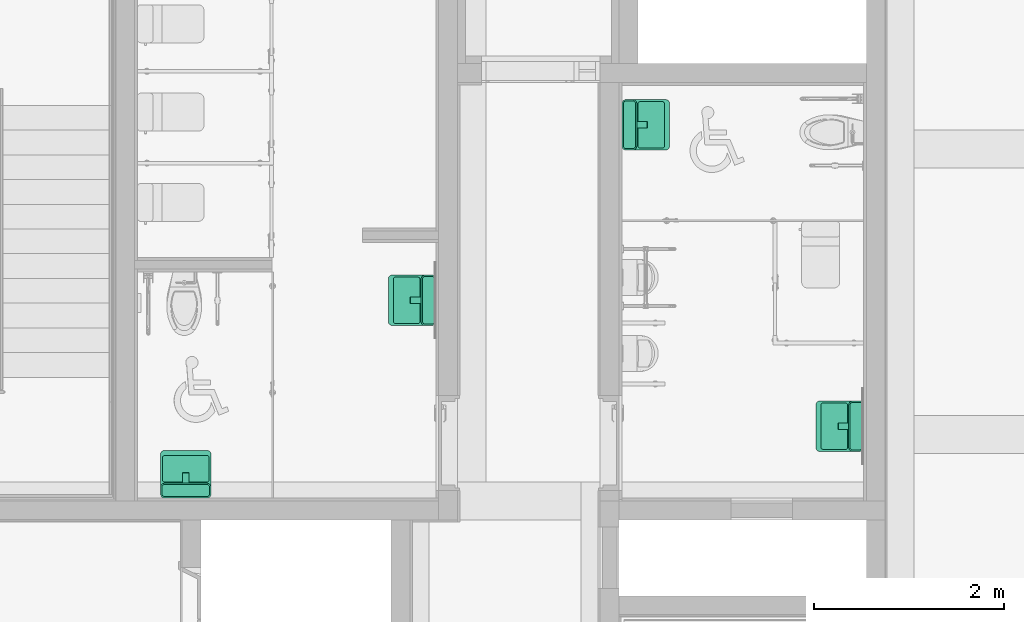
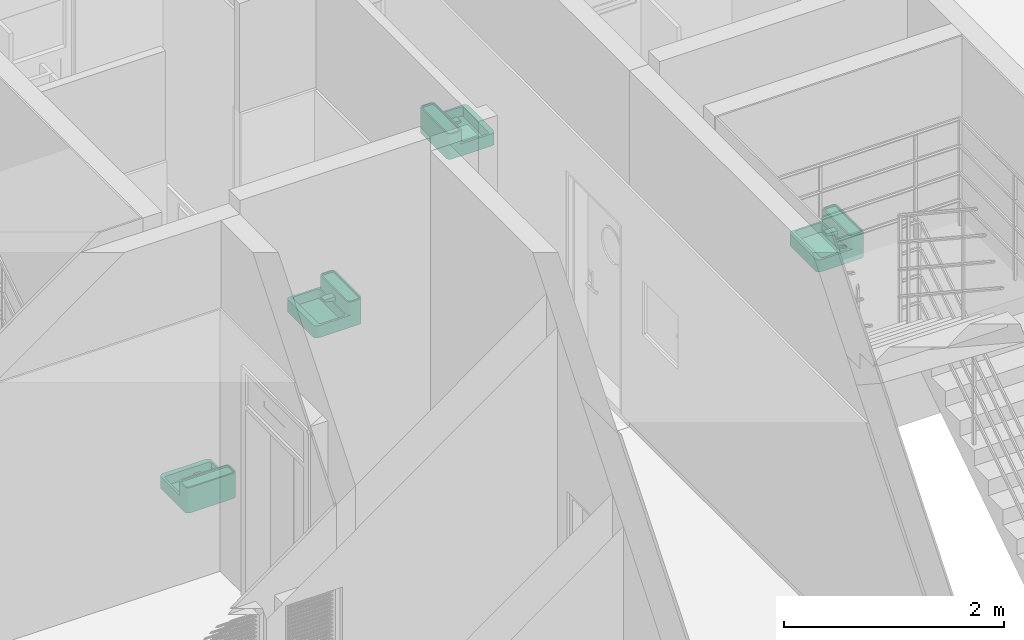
# One storey, part 76 of 81: 4 flow terminals.
"""IFC2X3 building model written with IfcOpenShell, lengths in millimetres."""

from ifc_helpers import new_model, entity, si_unit, converted_unit, derived_unit, direction, frame, origin, place, context, subcontext, project, spatial, faceted_brep, source, transform, mapped, material, material_list, type_object, type_shapes, element, save


model = new_model("IFC2X3")

# Units and contexts
model_context = context("Model", 3, precision=0.01, world=origin(), true_north=direction((6.123031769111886e-17, 1.0)))
body_context = subcontext(model_context, "Body", "Model", "MODEL_VIEW")
ifc_project = project(units=[si_unit("LENGTHUNIT", "METRE", prefix="MILLI"), si_unit("AREAUNIT", "SQUARE_METRE"), si_unit("VOLUMEUNIT", "CUBIC_METRE"), converted_unit("PLANEANGLEUNIT", "DEGREE", entity("IfcRatioMeasure", 0.017453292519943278), si_unit("PLANEANGLEUNIT", "RADIAN"), dimensions=[0, 0, 0, 0, 0, 0, 0]), si_unit("MASSUNIT", "GRAM", prefix="KILO"), derived_unit("MASSDENSITYUNIT", [(si_unit("MASSUNIT", "GRAM", prefix="KILO"), 1), (si_unit("LENGTHUNIT", "METRE"), -3)]), derived_unit("MOMENTOFINERTIAUNIT", [(si_unit("LENGTHUNIT", "METRE"), 4)]), si_unit("TIMEUNIT", "SECOND"), si_unit("FREQUENCYUNIT", "HERTZ"), si_unit("THERMODYNAMICTEMPERATUREUNIT", "DEGREE_CELSIUS"), derived_unit("THERMALTRANSMITTANCEUNIT", [(si_unit("MASSUNIT", "GRAM", prefix="KILO"), 1), (si_unit("THERMODYNAMICTEMPERATUREUNIT", "KELVIN"), -1), (si_unit("TIMEUNIT", "SECOND"), -3)]), derived_unit("VOLUMETRICFLOWRATEUNIT", [(si_unit("LENGTHUNIT", "METRE"), 3), (si_unit("TIMEUNIT", "SECOND"), -1)]), derived_unit("MASSFLOWRATEUNIT", [(si_unit("MASSUNIT", "GRAM", prefix="KILO"), 1), (si_unit("TIMEUNIT", "SECOND"), -1)]), derived_unit("ROTATIONALFREQUENCYUNIT", [(si_unit("TIMEUNIT", "SECOND"), -1)]), si_unit("ELECTRICCURRENTUNIT", "AMPERE"), si_unit("ELECTRICVOLTAGEUNIT", "VOLT"), si_unit("POWERUNIT", "WATT"), si_unit("FORCEUNIT", "NEWTON", prefix="KILO"), si_unit("ILLUMINANCEUNIT", "LUX"), si_unit("LUMINOUSFLUXUNIT", "LUMEN"), si_unit("LUMINOUSINTENSITYUNIT", "CANDELA"), derived_unit("USERDEFINED", [(si_unit("MASSUNIT", "GRAM", prefix="KILO"), -1), (si_unit("LENGTHUNIT", "METRE"), -2), (si_unit("TIMEUNIT", "SECOND"), 3), (si_unit("LUMINOUSFLUXUNIT", "LUMEN"), 1)]), derived_unit("SOUNDPOWERUNIT", [(si_unit("MASSUNIT", "GRAM", prefix="KILO"), 1), (si_unit("LENGTHUNIT", "METRE"), 2), (si_unit("TIMEUNIT", "SECOND"), -3)]), derived_unit("SOUNDPRESSUREUNIT", [(si_unit("MASSUNIT", "GRAM", prefix="KILO"), 1), (si_unit("LENGTHUNIT", "METRE"), -1), (si_unit("TIMEUNIT", "SECOND"), -2)]), derived_unit("LINEARVELOCITYUNIT", [(si_unit("LENGTHUNIT", "METRE"), 1), (si_unit("TIMEUNIT", "SECOND"), -1)]), si_unit("PRESSUREUNIT", "PASCAL"), derived_unit("USERDEFINED", [(si_unit("LENGTHUNIT", "METRE"), -2), (si_unit("MASSUNIT", "GRAM", prefix="KILO"), 1), (si_unit("TIMEUNIT", "SECOND"), -2)]), derived_unit("LINEARFORCEUNIT", [(si_unit("MASSUNIT", "GRAM", prefix="KILO"), 1), (si_unit("LENGTHUNIT", "METRE"), 1), (si_unit("TIMEUNIT", "SECOND"), -2), (si_unit("LENGTHUNIT", "METRE"), -1)]), derived_unit("PLANARFORCEUNIT", [(si_unit("MASSUNIT", "GRAM", prefix="KILO"), 1), (si_unit("LENGTHUNIT", "METRE"), 1), (si_unit("TIMEUNIT", "SECOND"), -2), (si_unit("LENGTHUNIT", "METRE"), -2)])], contexts=[model_context])

# Site, building, storey, space
site_placement = place(None, frame((-14167.972527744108, -657.2125860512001, 0.0)))
site = spatial("IfcSite", under=ifc_project, at=site_placement, Name="Default", CompositionType="ELEMENT")
building_placement = place(site_placement, origin())
building = spatial("IfcBuilding", under=site, at=building_placement, Name="Sample Building", CompositionType="ELEMENT")
storey_placement = place(building_placement, frame((0.0, 0.0, 13400.0)))
storey = spatial("IfcBuildingStorey", under=building, at=storey_placement, Name="지상 4층", CompositionType="ELEMENT", Elevation=13400.00000000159)
space_1_placement = place(storey_placement, origin())
space_1 = spatial("IfcSpace", under=storey, at=space_1_placement, Name="221", CompositionType="ELEMENT", InteriorOrExteriorSpace="INTERNAL")

# Flow terminal
ifc_material_1 = material(Name="KBIMS-스테인리스 스틸_도금")
ifc_material_2 = material(Name="KBIMS-도기")
ifc_material_list_1 = material_list([ifc_material_1, ifc_material_2])
ifc_material_list_2 = material_list([ifc_material_1, ifc_material_2])
distribution_element_type = type_object("IfcDistributionElementType", Name="PF411-평면붙임형 세면기:PF411-평면붙임형 세면기", material=ifc_material_list_2)
shared_shape = source(origin(), body_context, "Body", "Brep", [
    faceted_brep([(300.325836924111, 231.5952722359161, 201.9113756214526), (300.325836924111, 231.59527223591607, 190.0), (300.325836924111, 346.5952722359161, 163.45015802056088), (300.325836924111, 346.5952722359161, 210.0), (300.325836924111, 239.68389661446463, 210.0), (300.325836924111, 237.59040657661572, 209.724386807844), (300.325836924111, 235.63958442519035, 208.9163298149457), (300.325836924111, 233.96437546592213, 207.63089676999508), (300.325836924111, 232.67894242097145, 205.9556878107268), (300.325836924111, 231.87088542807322, 204.00486565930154), (232.86470754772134, 231.5952722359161, 201.9113756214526), (232.86470754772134, 231.87088542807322, 204.00486565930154), (232.86470754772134, 232.67894242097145, 205.9556878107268), (232.86470754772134, 233.96437546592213, 207.63089676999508), (232.86470754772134, 235.63958442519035, 208.9163298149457), (232.86470754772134, 237.59040657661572, 209.724386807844), (232.86470754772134, 239.68389661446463, 210.0), (232.86470754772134, 346.5952722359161, 210.0), (232.86470754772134, 346.5952722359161, 163.45015802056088), (232.86470754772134, 231.59527223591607, 190.0)], [[[0, 1, 2, 3, 4, 5, 6, 7, 8, 9]], [[10, 11, 12, 13, 14, 15, 16, 17, 18, 19]], [[5, 4, 16, 15]], [[6, 5, 15, 14]], [[13, 7, 6, 14]], [[9, 8, 12, 11]], [[9, 11, 10, 0]], [[13, 12, 8, 7]], [[1, 0, 10, 19]], [[2, 1, 19, 18]], [[3, 2, 18, 17]], [[4, 3, 17, 16]]]),
    faceted_brep([(526.236288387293, 481.59527223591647, 280.0), (519.8795434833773, 489.87954348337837, 280.0), (513.2459073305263, 474.09527223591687, 280.0), (515.743417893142, 468.0657483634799, 280.0), (530.2323052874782, 471.94803404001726, 280.0), (509.2729417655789, 479.27294176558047, 280.0), (511.59527223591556, 496.2362883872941, 280.0), (504.0952722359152, 483.2459073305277, 280.0), (501.9480340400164, 500.23230528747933, 280.0), (498.0657483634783, 485.74341789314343, 280.0), (491.5952722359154, 501.5952722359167, 280.0), (491.5952722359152, 486.5952722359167, 280.0), (41.59527223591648, 501.5952722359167, 280.0), (41.59527223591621, 486.5952722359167, 280.0), (35.124796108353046, 485.7434178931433, 280.0), (31.242510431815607, 500.2323052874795, 280.0), (29.095272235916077, 483.2459073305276, 280.0), (21.59527223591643, 496.23628838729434, 280.0), (23.9176027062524, 479.2729417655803, 280.0), (13.311000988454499, 489.87954348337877, 280.0), (19.944637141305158, 474.0952722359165, 280.0), (6.95425608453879, 481.59527223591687, 280.0), (17.447126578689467, 468.06574836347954, 280.0), (2.9582391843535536, 471.94803404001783, 280.0), (1.5952722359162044, 461.5952722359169, 280.0), (16.595272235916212, 461.5952722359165, 280.0), (16.595272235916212, 386.59527223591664, 280.0), (1.5952722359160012, 386.5952722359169, 280.0), (17.447126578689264, 380.12479610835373, 280.0), (2.958239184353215, 376.24251043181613, 280.0), (6.954256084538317, 366.595272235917, 280.0), (19.94463714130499, 374.09527223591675, 280.0), (13.311000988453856, 358.3110009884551, 280.0), (23.917602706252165, 368.9176027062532, 280.0), (21.59527223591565, 351.9542560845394, 280.0), (29.095272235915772, 364.94463714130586, 280.0), (31.24251043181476, 347.95823918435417, 280.0), (35.12479610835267, 362.44712657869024, 280.0), (41.59527223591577, 346.59527223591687, 280.0), (41.59527223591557, 361.5952722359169, 280.0), (491.5952722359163, 361.5952722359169, 280.0), (491.595272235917, 346.59527223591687, 280.0), (498.0657483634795, 362.44712657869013, 280.0), (501.9480340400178, 347.9582391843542, 280.0), (504.09527223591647, 364.94463714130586, 280.0), (511.59527223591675, 351.9542560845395, 280.0), (509.2729417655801, 368.91760270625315, 280.0), (519.8795434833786, 358.31100098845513, 280.0), (513.2459073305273, 374.0952722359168, 280.0), (526.236288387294, 366.59527223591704, 280.0), (515.743417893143, 380.1247961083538, 280.0), (530.2323052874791, 376.24251043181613, 280.0), (531.5952722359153, 386.59527223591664, 280.0), (516.5952722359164, 386.59527223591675, 280.0), (531.5952722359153, 461.5952722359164, 280.0), (516.5952722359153, 461.5952722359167, 280.0), (13.311000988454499, 489.87954348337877, 0.0), (21.59527223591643, 496.23628838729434, 0.0), (31.242510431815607, 500.2323052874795, 0.0), (41.59527223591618, 501.5952722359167, 0.0), (491.5952722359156, 501.5952722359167, 0.0), (501.9480340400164, 500.23230528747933, 0.0), (511.59527223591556, 496.2362883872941, 0.0), (519.8795434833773, 489.87954348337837, 0.0), (526.236288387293, 481.59527223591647, 0.0), (530.2323052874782, 471.94803404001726, 0.0), (531.5952722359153, 461.5952722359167, 0.0), (531.5952722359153, 41.59527223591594, 0.0), (530.232305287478, 31.2425104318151, 0.0), (526.2362883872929, 21.595272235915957, 0.0), (519.8795434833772, 13.31100098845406, 0.0), (511.5952722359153, 6.954256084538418, 0.0), (501.9480340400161, 2.958239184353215, 0.0), (491.5952722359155, 1.5952722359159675, 0.0), (41.59527223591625, 1.5952722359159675, 0.0), (31.242510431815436, 2.9582391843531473, 0.0), (21.595272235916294, 6.9542560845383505, 0.0), (13.311000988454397, 13.311000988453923, 0.0), (6.954256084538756, 21.59527223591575, 0.0), (2.95823918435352, 31.242510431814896, 0.0), (1.5952722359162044, 41.5952722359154, 0.0), (1.5952722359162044, 461.595272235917, 0.0), (2.9582391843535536, 471.94803404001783, 0.0), (6.95425608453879, 481.59527223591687, 0.0), (1.5952722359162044, 41.59527223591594, 135.0), (1.5952722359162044, 386.59527223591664, 135.0), (2.9582391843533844, 31.242510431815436, 135.0), (6.954256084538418, 21.59527223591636, 135.0), (13.311000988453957, 13.311000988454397, 135.0), (21.595272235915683, 6.954256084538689, 135.0), (31.242510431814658, 2.958239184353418, 135.0), (41.59527223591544, 1.5952722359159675, 135.0), (491.59527223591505, 1.5952722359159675, 135.0), (501.9480340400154, 2.9582391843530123, 135.0), (511.59527223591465, 6.954256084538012, 135.0), (519.8795434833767, 13.31100098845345, 135.0), (526.2362883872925, 21.59527223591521, 135.0), (530.2323052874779, 31.242510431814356, 135.0), (531.5952722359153, 41.59527223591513, 135.0), (531.5952722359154, 386.59527223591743, 135.0), (22.457263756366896, 313.81753553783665, 135.0), (6.954256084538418, 366.59527223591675, 135.0), (2.958239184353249, 376.2425104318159, 135.0), (13.31100098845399, 358.3110009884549, 135.0), (23.138747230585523, 318.993916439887, 135.0), (22.457263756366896, 75.92091166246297, 135.0), (25.13675568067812, 323.8175355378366, 135.0), (21.59527223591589, 351.9542560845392, 135.0), (28.315128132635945, 327.9596711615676, 135.0), (31.242510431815, 347.9582391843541, 135.0), (32.45726375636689, 331.13804361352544, 135.0), (37.28088285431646, 333.13605206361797, 135.0), (41.59527223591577, 346.59527223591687, 135.0), (42.45726375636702, 333.8175355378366, 135.0), (266.5952722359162, 333.8175355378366, 135.0), (491.5952722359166, 346.59527223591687, 135.0), (490.73328071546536, 333.8175355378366, 135.0), (495.90966161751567, 333.136052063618, 135.0), (501.9480340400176, 347.9582391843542, 135.0), (500.73328071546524, 331.13804361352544, 135.0), (504.8754163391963, 327.9596711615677, 135.0), (511.59527223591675, 351.9542560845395, 135.0), (508.05378879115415, 323.8175355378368, 135.0), (519.8795434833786, 358.31100098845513, 135.0), (510.0517972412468, 318.9939164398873, 135.0), (510.7332807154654, 313.81753553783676, 135.0), (526.236288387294, 366.5952722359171, 135.0), (530.2323052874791, 376.2425104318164, 135.0), (510.7332807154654, 75.92091166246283, 135.0), (510.0517972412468, 70.74453076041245, 135.0), (508.05378879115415, 65.92091166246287, 135.0), (504.8754163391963, 61.77877603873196, 135.0), (500.73328071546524, 58.60040358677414, 135.0), (495.90966161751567, 56.60239513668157, 135.0), (490.73328071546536, 55.920911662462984, 135.0), (266.5952722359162, 55.920911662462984, 135.0), (42.457263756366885, 55.920911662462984, 135.0), (37.28088285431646, 56.60239513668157, 135.0), (32.45726375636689, 58.600403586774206, 135.0), (28.315128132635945, 61.778776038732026, 135.0), (25.13675568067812, 65.92091166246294, 135.0), (23.138747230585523, 70.74453076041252, 135.0), (35.124796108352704, 362.44712657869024, 263.25881706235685), (41.59527223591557, 361.5952722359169, 263.25881706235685), (491.5952722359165, 361.5952722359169, 263.25881706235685), (498.06574836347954, 362.44712657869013, 263.25881706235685), (504.09527223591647, 364.94463714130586, 263.25881706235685), (509.2729417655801, 368.91760270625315, 263.25881706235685), (513.2459073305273, 374.09527223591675, 263.25881706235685), (515.743417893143, 380.1247961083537, 263.25881706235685), (516.5952722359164, 386.59527223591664, 263.25881706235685), (516.5952722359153, 461.5952722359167, 263.25881706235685), (515.7434178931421, 468.0657483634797, 263.25881706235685), (513.2459073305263, 474.0952722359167, 263.25881706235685), (509.27294176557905, 479.27294176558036, 263.25881706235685), (504.0952722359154, 483.24590733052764, 263.25881706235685), (498.0657483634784, 485.7434178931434, 263.25881706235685), (491.5952722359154, 486.5952722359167, 263.25881706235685), (41.59527223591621, 486.5952722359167, 263.25881706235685), (35.12479610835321, 485.7434178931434, 263.25881706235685), (29.095272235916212, 483.24590733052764, 263.25881706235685), (23.917602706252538, 479.27294176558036, 263.25881706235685), (19.94463714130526, 474.0952722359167, 263.25881706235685), (17.4471265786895, 468.06574836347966, 263.25881706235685), (16.595272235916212, 461.5952722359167, 263.25881706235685), (16.59527223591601, 386.59527223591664, 263.25881706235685), (17.447126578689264, 380.12479610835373, 263.25881706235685), (19.94463714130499, 374.09527223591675, 263.25881706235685), (23.917602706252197, 368.91760270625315, 263.25881706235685), (29.095272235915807, 364.94463714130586, 263.25881706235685), (28.31512813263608, 327.95967116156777, 30.152650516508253), (25.136755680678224, 323.8175355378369, 30.152650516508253), (23.13874723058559, 318.9939164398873, 30.152650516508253), (22.457263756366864, 313.81753553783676, 30.152650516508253), (22.457263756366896, 75.92091166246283, 30.152650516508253), (23.138747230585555, 70.74453076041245, 30.152650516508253), (25.136755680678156, 65.92091166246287, 30.152650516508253), (28.315128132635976, 61.77877603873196, 30.152650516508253), (32.45726375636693, 58.60040358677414, 30.152650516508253), (37.280882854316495, 56.60239513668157, 30.152650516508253), (42.457263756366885, 55.920911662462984, 30.152650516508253), (266.5952722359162, 55.920911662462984, 30.152650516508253), (490.7332807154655, 55.920911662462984, 30.152650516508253), (495.90966161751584, 56.60239513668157, 30.152650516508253), (500.7332807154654, 58.60040358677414, 30.152650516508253), (504.8754163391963, 61.77877603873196, 30.152650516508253), (508.05378879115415, 65.92091166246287, 30.152650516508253), (510.0517972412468, 70.74453076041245, 30.152650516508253), (510.7332807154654, 75.92091166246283, 30.152650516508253), (510.7332807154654, 313.81753553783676, 30.152650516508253), (510.0517972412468, 318.99391643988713, 30.152650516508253), (508.05378879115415, 323.8175355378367, 30.152650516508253), (504.8754163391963, 327.95967116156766, 30.152650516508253), (500.7332807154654, 331.13804361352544, 30.152650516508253), (495.90966161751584, 333.13605206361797, 30.152650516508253), (490.7332807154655, 333.8175355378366, 30.152650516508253), (266.5952722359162, 333.8175355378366, 30.152650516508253), (42.45726375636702, 333.8175355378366, 30.152650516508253), (37.28088285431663, 333.136052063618, 30.152650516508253), (32.45726375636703, 331.13804361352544, 30.152650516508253)], [[[0, 1, 2]], [[0, 2, 3]], [[4, 0, 3]], [[2, 1, 5]], [[6, 5, 1]], [[7, 5, 6]], [[7, 6, 8]], [[7, 8, 9]], [[9, 8, 10]], [[11, 9, 10]], [[10, 12, 11]], [[12, 13, 11]], [[14, 13, 12]], [[14, 12, 15]], [[14, 15, 16]], [[16, 15, 17]], [[18, 16, 17]], [[17, 19, 18]], [[19, 20, 18]], [[20, 19, 21]], [[20, 21, 22]], [[22, 21, 23]], [[23, 24, 22]], [[25, 22, 24]], [[25, 24, 26]], [[27, 26, 24]], [[28, 26, 27]], [[28, 27, 29]], [[28, 29, 30]], [[30, 31, 28]], [[32, 31, 30]], [[31, 32, 33]], [[33, 32, 34]], [[35, 33, 34]], [[35, 34, 36]], [[37, 35, 36]], [[38, 37, 36]], [[39, 37, 38]], [[39, 38, 40]], [[41, 40, 38]], [[40, 41, 42]], [[41, 43, 42]], [[44, 42, 43]], [[45, 44, 43]], [[46, 44, 45]], [[46, 45, 47]], [[47, 48, 46]], [[48, 47, 49]], [[50, 48, 49]], [[51, 50, 49]], [[52, 50, 51]], [[52, 53, 50]], [[53, 52, 54]], [[54, 4, 3]], [[3, 55, 54]], [[54, 55, 53]], [[56, 57, 58, 59, 60, 61, 62, 63, 64, 65, 66, 67, 68, 69, 70, 71, 72, 73, 74, 75, 76, 77, 78, 79, 80, 81, 82, 83]], [[12, 10, 60, 59]], [[15, 58, 57, 17]], [[17, 57, 56, 19]], [[59, 58, 15, 12]], [[21, 83, 82, 23]], [[23, 82, 81, 24]], [[19, 56, 83, 21]], [[24, 81, 80, 84, 85, 27]], [[86, 79, 78, 87]], [[87, 78, 77, 88]], [[80, 79, 86, 84]], [[89, 76, 75, 90]], [[90, 75, 74, 91]], [[88, 77, 76, 89]], [[92, 91, 74, 73]], [[93, 72, 71, 94]], [[94, 71, 70, 95]], [[73, 72, 93, 92]], [[96, 69, 68, 97]], [[97, 68, 67, 98]], [[95, 70, 69, 96]], [[54, 52, 99, 98, 67, 66]], [[4, 65, 64, 0]], [[0, 64, 63, 1]], [[66, 65, 4, 54]], [[6, 62, 61, 8]], [[8, 61, 60, 10]], [[1, 63, 62, 6]], [[100, 101, 102]], [[101, 100, 103]], [[103, 100, 104]], [[84, 100, 102]], [[100, 84, 105]], [[106, 103, 104]], [[106, 107, 103]], [[108, 107, 106]], [[109, 107, 108]], [[110, 109, 108]], [[109, 110, 111]], [[112, 109, 111]], [[113, 112, 111]], [[114, 112, 113]], [[115, 112, 114]], [[114, 116, 115]], [[115, 116, 117]], [[118, 115, 117]], [[119, 118, 117]], [[118, 119, 120]], [[120, 121, 118]], [[121, 120, 122]], [[122, 123, 121]], [[123, 122, 124]], [[123, 124, 125]], [[126, 123, 125]], [[125, 127, 126]], [[127, 125, 98]], [[128, 98, 125]], [[98, 128, 129]], [[129, 130, 98]], [[98, 130, 131]], [[131, 132, 98]], [[132, 97, 98]], [[132, 133, 97]], [[97, 133, 96]], [[96, 133, 95]], [[94, 95, 133]], [[134, 94, 133]], [[93, 94, 134]], [[93, 134, 92]], [[134, 135, 92]], [[92, 135, 91]], [[91, 135, 136]], [[136, 90, 91]], [[90, 136, 89]], [[137, 89, 136]], [[89, 137, 88]], [[137, 87, 88]], [[137, 86, 87]], [[138, 86, 137]], [[138, 84, 86]], [[139, 84, 138]], [[140, 84, 139]], [[140, 141, 84]], [[141, 105, 84]], [[98, 99, 127]], [[84, 102, 85]], [[115, 41, 38, 112]], [[109, 112, 38, 36]], [[107, 109, 36, 34]], [[34, 32, 103, 107]], [[102, 101, 30, 29]], [[85, 102, 29, 27]], [[32, 30, 101, 103]], [[127, 99, 52, 51]], [[126, 127, 51, 49]], [[49, 47, 123, 126]], [[118, 121, 45, 43]], [[115, 118, 43, 41]], [[47, 45, 121, 123]], [[142, 143, 144, 145, 146, 147, 148, 149, 150, 151, 152, 153, 154, 155, 156, 157, 158, 159, 160, 161, 162, 163, 164, 165, 166, 167, 168, 169]], [[164, 25, 26, 165]], [[166, 165, 26, 28]], [[167, 166, 28, 31]], [[167, 31, 33, 168]], [[169, 168, 33, 35]], [[142, 169, 35, 37]], [[142, 37, 39, 143]], [[143, 39, 40, 144]], [[145, 144, 40, 42]], [[146, 145, 42, 44]], [[146, 44, 46, 147]], [[148, 147, 46, 48]], [[149, 148, 48, 50]], [[149, 50, 53, 150]], [[150, 53, 55, 151]], [[152, 151, 55, 3]], [[153, 152, 3, 2]], [[153, 2, 5, 154]], [[155, 154, 5, 7]], [[9, 156, 155, 7]], [[9, 11, 157, 156]], [[157, 11, 13, 158]], [[159, 158, 13, 14]], [[160, 159, 14, 16]], [[160, 16, 18, 161]], [[162, 161, 18, 20]], [[163, 162, 20, 22]], [[163, 22, 25, 164]], [[170, 171, 172, 173, 174, 175, 176, 177, 178, 179, 180, 181, 182, 183, 184, 185, 186, 187, 188, 189, 190, 191, 192, 193, 194, 195, 196, 197, 198, 199]], [[196, 195, 116, 114, 113, 197]], [[199, 198, 111, 110]], [[170, 199, 110, 108]], [[113, 111, 198, 197]], [[172, 171, 106, 104]], [[173, 172, 104, 100]], [[106, 171, 170, 108]], [[173, 100, 105, 174]], [[176, 175, 141, 140]], [[177, 176, 140, 139]], [[105, 141, 175, 174]], [[179, 178, 138, 137]], [[180, 179, 137, 136]], [[138, 178, 177, 139]], [[180, 136, 135, 134, 182, 181]], [[184, 183, 133, 132]], [[185, 184, 132, 131]], [[134, 133, 183, 182]], [[187, 186, 130, 129]], [[188, 187, 129, 128]], [[130, 186, 185, 131]], [[188, 128, 125, 189]], [[122, 120, 192, 191]], [[124, 190, 189, 125]], [[191, 190, 124, 122]], [[194, 193, 119, 117]], [[195, 194, 117, 116]], [[119, 193, 192, 120]]]),
])
type_shapes(distribution_element_type, [shared_shape])
flow_terminal_1_placement = place(space_1_placement, frame((40236.3684827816, 23508.80757406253, 595.0), z_axis=(0.0, 0.0, 1.0), x_axis=(0.0, -1.0, 0.0)))
element("IfcFlowTerminal", 1, at=flow_terminal_1_placement, inside=space_1, type_object=distribution_element_type, material=ifc_material_list_1, Name="PF411-평면붙임형 세면기:PF411-평면붙임형 세면기", ObjectType="PF411-평면붙임형 세면기:PF411-평면붙임형 세면기", context=body_context, shape_type="MappedRepresentation", body=[
    mapped(shared_shape, transform((0.0, 0.0, 0.0), scale=1.0)),
])

# Space
space_2_placement = place(storey_placement, origin())
space_2 = spatial("IfcSpace", under=storey, at=space_2_placement, Name="222", CompositionType="ELEMENT", InteriorOrExteriorSpace="INTERNAL")

# Flow terminals
ifc_material_list_3 = material_list([ifc_material_1, ifc_material_2])
flow_terminal_2_placement = place(space_2_placement, frame((33872.799922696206, 22988.807575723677, 635.0), z_axis=(0.0, 0.0, 1.0), x_axis=(-1.0, 0.0, 0.0)))
element("IfcFlowTerminal", 2, at=flow_terminal_2_placement, inside=space_2, type_object=distribution_element_type, material=ifc_material_list_3, Name="PF411-평면붙임형 세면기:PF411-평면붙임형 세면기", ObjectType="PF411-평면붙임형 세면기:PF411-평면붙임형 세면기", context=body_context, shape_type="MappedRepresentation", body=[
    mapped(shared_shape, transform((0.0, 0.0, 0.0), scale=1.0)),
])
ifc_material_list_4 = material_list([ifc_material_1, ifc_material_2])
flow_terminal_3_placement = place(space_2_placement, frame((35736.36848278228, 24833.90833582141, 635.0), z_axis=(0.0, 0.0, 1.0), x_axis=(0.0, -1.0, 0.0)))
element("IfcFlowTerminal", 3, at=flow_terminal_3_placement, inside=space_2, type_object=distribution_element_type, material=ifc_material_list_4, Name="PF411-평면붙임형 세면기:PF411-평면붙임형 세면기", ObjectType="PF411-평면붙임형 세면기:PF411-평면붙임형 세면기", context=body_context, shape_type="MappedRepresentation", body=[
    mapped(shared_shape, transform((0.0, 0.0, 0.0), scale=1.0)),
])
ifc_material_list_5 = material_list([ifc_material_1, ifc_material_2])
flow_terminal_4_placement = place(space_1_placement, frame((38699.559070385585, 26147.154047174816, 635.0), z_axis=(0.0, 0.0, 1.0), x_axis=(0.0, 1.0, 0.0)))
element("IfcFlowTerminal", 4, at=flow_terminal_4_placement, inside=space_1, type_object=distribution_element_type, material=ifc_material_list_5, Name="PF411-평면붙임형 세면기:PF411-평면붙임형 세면기", ObjectType="PF411-평면붙임형 세면기:PF411-평면붙임형 세면기", context=body_context, shape_type="MappedRepresentation", body=[
    mapped(shared_shape, transform((0.0, 0.0, 0.0), scale=1.0)),
])

save(model, "model.ifc")
